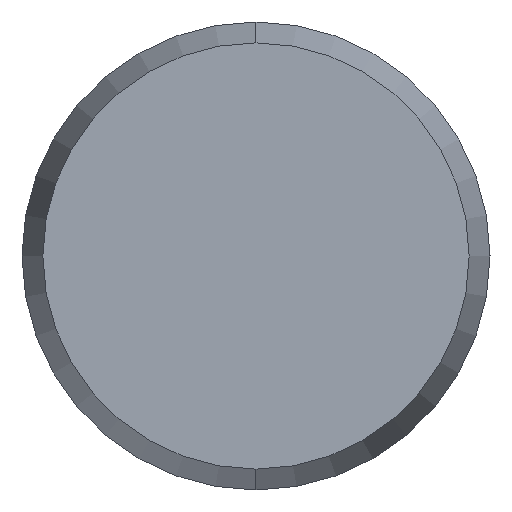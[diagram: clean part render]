
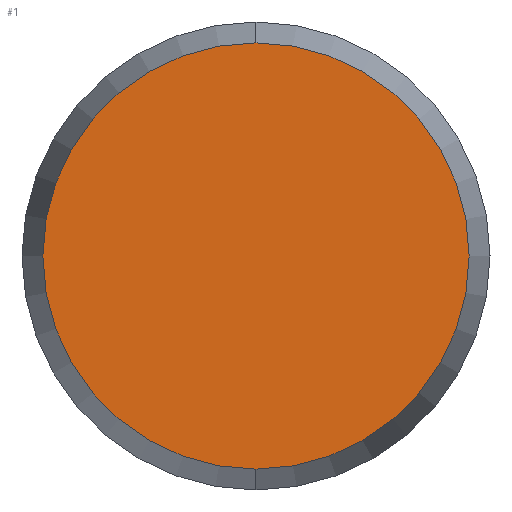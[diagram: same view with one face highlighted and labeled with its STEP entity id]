
A CAD part, left-side view. The second image highlights one B-rep face of the part: STEP entity #1.
In plain terms, the highlighted planar face has unit normal (-1, 0, 0).
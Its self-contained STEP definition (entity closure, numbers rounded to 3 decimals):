
#1 = ADVANCED_FACE ( 'NONE', ( #73 ), #79, .F. ) ;
#5 = EDGE_LOOP ( 'NONE', ( #13, #12 ) ) ;
#12 = ORIENTED_EDGE ( 'NONE', *, *, #14, .F. ) ;
#13 = ORIENTED_EDGE ( 'NONE', *, *, #38, .F. ) ;
#14 = EDGE_CURVE ( 'NONE', #40, #39, #77, .T. ) ;
#38 = EDGE_CURVE ( 'NONE', #39, #40, #205, .T. ) ;
#39 = VERTEX_POINT ( 'NONE', #232 ) ;
#40 = VERTEX_POINT ( 'NONE', #231 ) ;
#73 = FACE_OUTER_BOUND ( 'NONE', #5, .T. ) ;
#77 = CIRCLE ( 'NONE', #90, 2.732 ) ;
#79 = PLANE ( 'NONE',  #97 ) ;
#87 = DIRECTION ( 'NONE',  ( 0., 0., -1. ) ) ;
#88 = DIRECTION ( 'NONE',  ( 1., 0., 0. ) ) ;
#89 = CARTESIAN_POINT ( 'NONE',  ( -15., 0., 0. ) ) ;
#90 = AXIS2_PLACEMENT_3D ( 'NONE', #89, #88, #87 ) ;
#94 = DIRECTION ( 'NONE',  ( 0., 0., -1. ) ) ;
#95 = DIRECTION ( 'NONE',  ( 1., 0., 0. ) ) ;
#96 = CARTESIAN_POINT ( 'NONE',  ( -15., 0., 0. ) ) ;
#97 = AXIS2_PLACEMENT_3D ( 'NONE', #96, #95, #94 ) ;
#201 = DIRECTION ( 'NONE',  ( 0., 0., -1. ) ) ;
#202 = DIRECTION ( 'NONE',  ( 1., 0., 0. ) ) ;
#203 = CARTESIAN_POINT ( 'NONE',  ( -15., 0., 0. ) ) ;
#204 = AXIS2_PLACEMENT_3D ( 'NONE', #203, #202, #201 ) ;
#205 = CIRCLE ( 'NONE', #204, 2.732 ) ;
#231 = CARTESIAN_POINT ( 'NONE',  ( -15., 0., -2.732 ) ) ;
#232 = CARTESIAN_POINT ( 'NONE',  ( -15., 0., 2.732 ) ) ;
